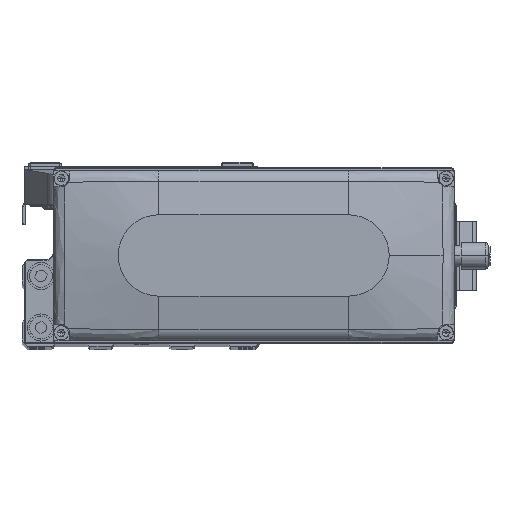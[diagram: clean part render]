
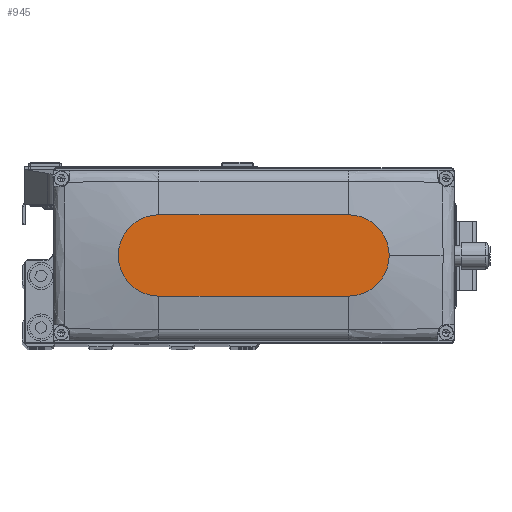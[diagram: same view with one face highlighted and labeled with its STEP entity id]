
A CAD part, top view. The second image highlights one B-rep face of the part: STEP entity #945.
In plain terms, the highlighted planar face has unit normal (0, 0, 1).
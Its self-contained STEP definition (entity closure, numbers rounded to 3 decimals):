
#945 = ADVANCED_FACE ( 'NONE', ( #39351 ), #6086, .T. ) ;
#1785 = EDGE_CURVE ( 'NONE', #29219, #10085, #45491, .T. ) ;
#2450 = DIRECTION ( 'NONE',  ( 1., 0., 0. ) ) ;
#3189 = DIRECTION ( 'NONE',  ( 0., 0., 1. ) ) ;
#3277 = ORIENTED_EDGE ( 'NONE', *, *, #1785, .T. ) ;
#3532 = AXIS2_PLACEMENT_3D ( 'NONE', #42346, #9078, #23886 ) ;
#5314 = DIRECTION ( 'NONE',  ( 0., 0., 1. ) ) ;
#5822 = CARTESIAN_POINT ( 'NONE',  ( -35., 15., 35. ) ) ;
#6086 = PLANE ( 'NONE',  #15955 ) ;
#6640 = LINE ( 'NONE', #21462, #25629 ) ;
#6739 = CIRCLE ( 'NONE', #33907, 15. ) ;
#9078 = DIRECTION ( 'NONE',  ( 0., 0., 1. ) ) ;
#10085 = VERTEX_POINT ( 'NONE', #37868 ) ;
#11827 = CARTESIAN_POINT ( 'NONE',  ( -35., 15., 35. ) ) ;
#15276 = EDGE_CURVE ( 'NONE', #10085, #36288, #6640, .T. ) ;
#15955 = AXIS2_PLACEMENT_3D ( 'NONE', #20896, #35729, #2450 ) ;
#16832 = CARTESIAN_POINT ( 'NONE',  ( 35., 15., 35. ) ) ;
#17346 = EDGE_CURVE ( 'NONE', #38276, #29219, #39097, .T. ) ;
#17978 = VECTOR ( 'NONE', #20639, 1000. ) ;
#18012 = DIRECTION ( 'NONE',  ( 1., 0., 0. ) ) ;
#18060 = ORIENTED_EDGE ( 'NONE', *, *, #20840, .T. ) ;
#18613 = ORIENTED_EDGE ( 'NONE', *, *, #15276, .T. ) ;
#20126 = DIRECTION ( 'NONE',  ( 1., 0., 0. ) ) ;
#20639 = DIRECTION ( 'NONE',  ( -1., 0., 0. ) ) ;
#20840 = EDGE_CURVE ( 'NONE', #36288, #22207, #6739, .T. ) ;
#20896 = CARTESIAN_POINT ( 'NONE',  ( 0., 0., 35. ) ) ;
#21462 = CARTESIAN_POINT ( 'NONE',  ( -35., -15., 35. ) ) ;
#22207 = VERTEX_POINT ( 'NONE', #22523 ) ;
#22523 = CARTESIAN_POINT ( 'NONE',  ( 50., 0., 35. ) ) ;
#23886 = DIRECTION ( 'NONE',  ( 1., 0., 0. ) ) ;
#23908 = EDGE_LOOP ( 'NONE', ( #43899, #3277, #18613, #18060, #40644 ) ) ;
#24475 = CIRCLE ( 'NONE', #3532, 15. ) ;
#24544 = AXIS2_PLACEMENT_3D ( 'NONE', #38584, #5314, #20126 ) ;
#25629 = VECTOR ( 'NONE', #36286, 1000. ) ;
#29219 = VERTEX_POINT ( 'NONE', #11827 ) ;
#33907 = AXIS2_PLACEMENT_3D ( 'NONE', #36475, #3189, #18012 ) ;
#35729 = DIRECTION ( 'NONE',  ( 0., 0., 1. ) ) ;
#36286 = DIRECTION ( 'NONE',  ( 1., 0., 0. ) ) ;
#36288 = VERTEX_POINT ( 'NONE', #37356 ) ;
#36475 = CARTESIAN_POINT ( 'NONE',  ( 35., 0., 35. ) ) ;
#37356 = CARTESIAN_POINT ( 'NONE',  ( 35., -15., 35. ) ) ;
#37868 = CARTESIAN_POINT ( 'NONE',  ( -35., -15., 35. ) ) ;
#38276 = VERTEX_POINT ( 'NONE', #16832 ) ;
#38584 = CARTESIAN_POINT ( 'NONE',  ( -35., 0., 35. ) ) ;
#39097 = LINE ( 'NONE', #5822, #17978 ) ;
#39351 = FACE_OUTER_BOUND ( 'NONE', #23908, .T. ) ;
#39458 = EDGE_CURVE ( 'NONE', #22207, #38276, #24475, .T. ) ;
#40644 = ORIENTED_EDGE ( 'NONE', *, *, #39458, .T. ) ;
#42346 = CARTESIAN_POINT ( 'NONE',  ( 35., 0., 35. ) ) ;
#43899 = ORIENTED_EDGE ( 'NONE', *, *, #17346, .T. ) ;
#45491 = CIRCLE ( 'NONE', #24544, 15. ) ;
